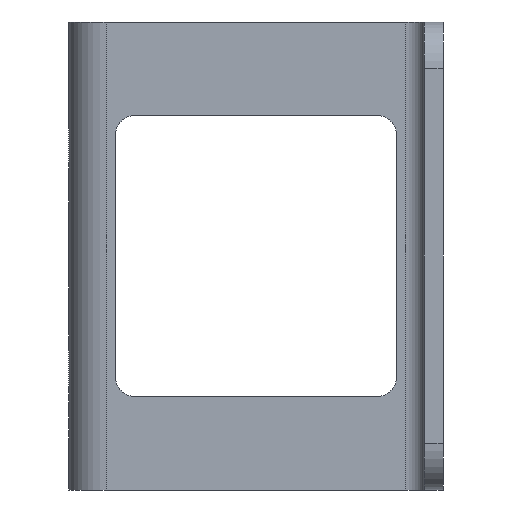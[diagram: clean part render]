
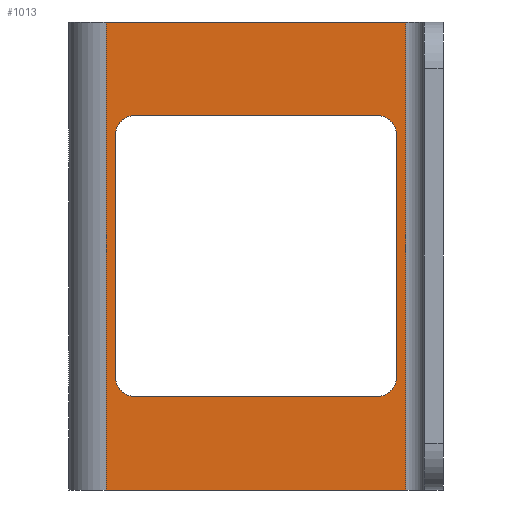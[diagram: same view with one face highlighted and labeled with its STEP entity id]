
A CAD part, left-side view. The second image highlights one B-rep face of the part: STEP entity #1013.
In plain terms, the highlighted planar face has unit normal (-1, 0, 0).
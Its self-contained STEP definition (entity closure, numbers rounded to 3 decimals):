
#17=FACE_BOUND('',#139,.T.);
#47=PLANE('',#1118);
#85=FACE_OUTER_BOUND('',#138,.T.);
#138=EDGE_LOOP('',(#772,#773,#774,#775));
#139=EDGE_LOOP('',(#776,#777,#778,#779,#780,#781,#782,#783));
#193=LINE('',#1509,#282);
#205=LINE('',#1545,#294);
#209=LINE('',#1560,#298);
#213=LINE('',#1571,#302);
#229=LINE('',#1639,#318);
#231=LINE('',#1645,#320);
#232=LINE('',#1647,#321);
#233=LINE('',#1648,#322);
#282=VECTOR('',#1197,10.);
#294=VECTOR('',#1233,10.);
#298=VECTOR('',#1251,10.);
#302=VECTOR('',#1263,10.);
#318=VECTOR('',#1333,10.);
#320=VECTOR('',#1339,10.);
#321=VECTOR('',#1340,10.);
#322=VECTOR('',#1341,10.);
#363=CIRCLE('',#1062,2.);
#369=CIRCLE('',#1074,2.);
#373=CIRCLE('',#1083,2.);
#375=CIRCLE('',#1087,2.);
#423=VERTEX_POINT('',#1487);
#424=VERTEX_POINT('',#1488);
#431=VERTEX_POINT('',#1508);
#437=VERTEX_POINT('',#1526);
#443=VERTEX_POINT('',#1544);
#445=VERTEX_POINT('',#1553);
#447=VERTEX_POINT('',#1559);
#449=VERTEX_POINT('',#1565);
#474=VERTEX_POINT('',#1636);
#475=VERTEX_POINT('',#1638);
#477=VERTEX_POINT('',#1644);
#478=VERTEX_POINT('',#1646);
#521=EDGE_CURVE('',#423,#424,#363,.T.);
#531=EDGE_CURVE('',#424,#431,#193,.T.);
#540=EDGE_CURVE('',#431,#437,#369,.T.);
#549=EDGE_CURVE('',#437,#443,#205,.T.);
#554=EDGE_CURVE('',#443,#445,#373,.T.);
#557=EDGE_CURVE('',#445,#447,#209,.T.);
#560=EDGE_CURVE('',#447,#449,#375,.T.);
#563=EDGE_CURVE('',#449,#423,#213,.T.);
#596=EDGE_CURVE('',#474,#475,#229,.T.);
#599=EDGE_CURVE('',#477,#474,#231,.T.);
#600=EDGE_CURVE('',#478,#477,#232,.T.);
#601=EDGE_CURVE('',#475,#478,#233,.T.);
#772=ORIENTED_EDGE('',*,*,#596,.F.);
#773=ORIENTED_EDGE('',*,*,#599,.F.);
#774=ORIENTED_EDGE('',*,*,#600,.F.);
#775=ORIENTED_EDGE('',*,*,#601,.F.);
#776=ORIENTED_EDGE('',*,*,#554,.T.);
#777=ORIENTED_EDGE('',*,*,#557,.T.);
#778=ORIENTED_EDGE('',*,*,#560,.T.);
#779=ORIENTED_EDGE('',*,*,#563,.T.);
#780=ORIENTED_EDGE('',*,*,#521,.T.);
#781=ORIENTED_EDGE('',*,*,#531,.T.);
#782=ORIENTED_EDGE('',*,*,#540,.T.);
#783=ORIENTED_EDGE('',*,*,#549,.T.);
#1013=ADVANCED_FACE('',(#85,#17),#47,.F.);
#1062=AXIS2_PLACEMENT_3D('',#1489,#1179,#1180);
#1074=AXIS2_PLACEMENT_3D('',#1527,#1216,#1217);
#1083=AXIS2_PLACEMENT_3D('',#1554,#1244,#1245);
#1087=AXIS2_PLACEMENT_3D('',#1566,#1256,#1257);
#1118=AXIS2_PLACEMENT_3D('',#1643,#1337,#1338);
#1179=DIRECTION('center_axis',(1.,0.,0.));
#1180=DIRECTION('ref_axis',(0.,-1.,0.));
#1197=DIRECTION('',(0.,1.,0.));
#1216=DIRECTION('center_axis',(1.,0.,0.));
#1217=DIRECTION('ref_axis',(0.,0.,-1.));
#1233=DIRECTION('',(0.,0.,1.));
#1244=DIRECTION('center_axis',(1.,0.,0.));
#1245=DIRECTION('ref_axis',(0.,1.,0.));
#1251=DIRECTION('',(0.,-1.,0.));
#1256=DIRECTION('center_axis',(1.,0.,0.));
#1257=DIRECTION('ref_axis',(0.,0.,1.));
#1263=DIRECTION('',(0.,0.,-1.));
#1333=DIRECTION('',(0.,0.,1.));
#1337=DIRECTION('center_axis',(1.,0.,0.));
#1338=DIRECTION('ref_axis',(0.,0.,-1.));
#1339=DIRECTION('',(0.,1.,0.));
#1340=DIRECTION('',(0.,0.,-1.));
#1341=DIRECTION('',(0.,-1.,0.));
#1487=CARTESIAN_POINT('',(-31.5,-35.,-13.));
#1488=CARTESIAN_POINT('',(-31.5,-33.,-15.));
#1489=CARTESIAN_POINT('Origin',(-31.5,-33.,-13.));
#1508=CARTESIAN_POINT('',(-31.5,-7.,-15.));
#1509=CARTESIAN_POINT('',(-31.5,-16.5,-15.));
#1526=CARTESIAN_POINT('',(-31.5,-5.,-13.));
#1527=CARTESIAN_POINT('Origin',(-31.5,-7.,-13.));
#1544=CARTESIAN_POINT('',(-31.5,-5.,13.));
#1545=CARTESIAN_POINT('',(-31.5,-5.,0.));
#1553=CARTESIAN_POINT('',(-31.5,-7.,15.));
#1554=CARTESIAN_POINT('Origin',(-31.5,-7.,13.));
#1559=CARTESIAN_POINT('',(-31.5,-33.,15.));
#1560=CARTESIAN_POINT('',(-31.5,-3.5,15.));
#1565=CARTESIAN_POINT('',(-31.5,-35.,13.));
#1566=CARTESIAN_POINT('Origin',(-31.5,-33.,13.));
#1571=CARTESIAN_POINT('',(-31.5,-35.,6.5));
#1636=CARTESIAN_POINT('',(-31.5,-4.,-25.));
#1638=CARTESIAN_POINT('',(-31.5,-4.,25.));
#1639=CARTESIAN_POINT('',(-31.5,-4.,0.));
#1643=CARTESIAN_POINT('Origin',(-31.5,0.,0.));
#1644=CARTESIAN_POINT('',(-31.5,-36.,-25.));
#1645=CARTESIAN_POINT('',(-31.5,0.,-25.));
#1646=CARTESIAN_POINT('',(-31.5,-36.,25.));
#1647=CARTESIAN_POINT('',(-31.5,-36.,0.));
#1648=CARTESIAN_POINT('',(-31.5,0.,25.));
